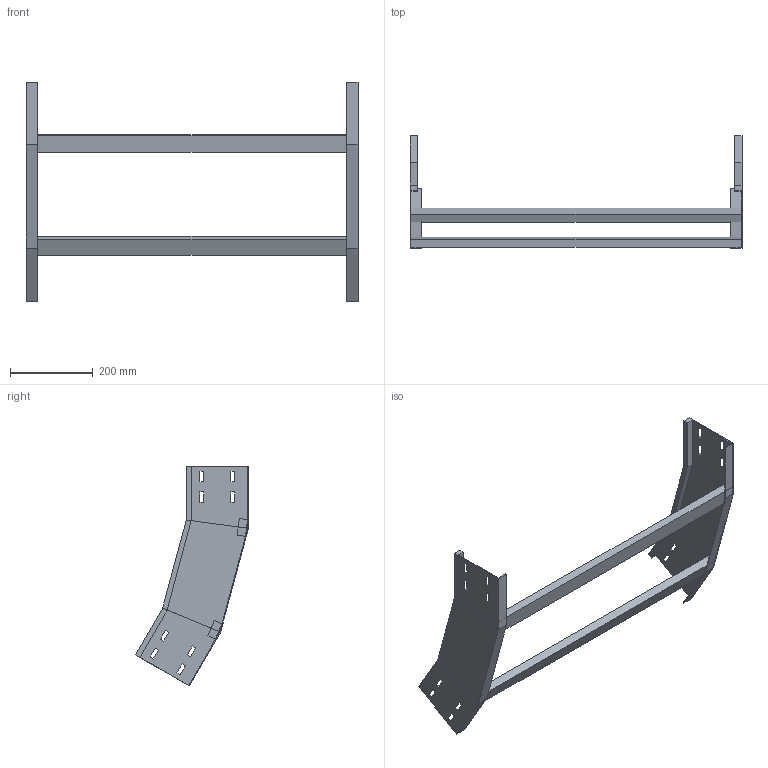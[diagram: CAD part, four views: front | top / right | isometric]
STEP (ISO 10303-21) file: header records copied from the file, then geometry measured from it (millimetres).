
FILE_DESCRIPTION (( 'STEP AP214' ), '1' );
FILE_NAME ('32J5F800.step', '2025-02-21T16:26:02', ( '' ), ( '' ), 'SwSTEP 2.0', 'SolidWorks 2023', '' );
FILE_SCHEMA (( 'AUTOMOTIVE_DESIGN' ));
Length unit declared in the file: millimetre
Products named in the file (3): LONGH.SALITA_30°_H150_R500; TRAVERSINO_800; 32J5F800
Assembly tree (4 placements, depth 2):
  32J5F800
    LONGH.SALITA_30°_H150_R500  x2
    TRAVERSINO_800  x2
Bounding box: 800 x 271.94 x 530.08 mm (x, y, z)
Volume: 1835406.5 mm3; surface area: 595644.7 mm2
Topology: 4 solids, 4 shells, 128 faces, 328 edges, 208 vertices
Faces by surface type: plane 128
Entity records: 2016 total; most frequent: CARTESIAN_POINT 339, ORIENTED_EDGE 328, DIRECTION 306, VECTOR 164, EDGE_CURVE 164, LINE 164, VERTEX_POINT 104, EDGE_LOOP 80
